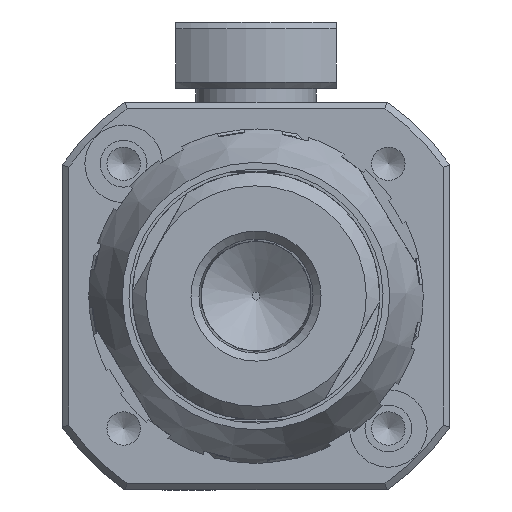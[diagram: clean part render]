
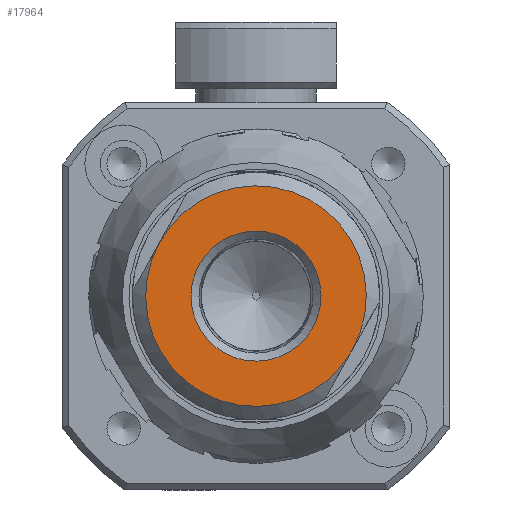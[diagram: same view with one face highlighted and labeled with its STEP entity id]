
A CAD part, front view. The second image highlights one B-rep face of the part: STEP entity #17964.
In plain terms, the highlighted planar face has unit normal (0, -1, 0).
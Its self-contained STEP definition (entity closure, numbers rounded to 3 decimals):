
#132 = EDGE_CURVE ( 'NONE', #370, #5322, #42770, .T. ) ;
#370 = VERTEX_POINT ( 'NONE', #45164 ) ;
#385 = ORIENTED_EDGE ( 'NONE', *, *, #132, .T. ) ;
#801 = EDGE_LOOP ( 'NONE', ( #385, #32803 ) ) ;
#1685 = DIRECTION ( 'NONE',  ( -0.873, 0., 0.487 ) ) ;
#1916 = DIRECTION ( 'NONE',  ( 0., -1., 0. ) ) ;
#4853 = CARTESIAN_POINT ( 'NONE',  ( -7.444, -97.732, 132.7 ) ) ;
#5322 = VERTEX_POINT ( 'NONE', #13178 ) ;
#7785 = DIRECTION ( 'NONE',  ( 0., -1., 0. ) ) ;
#8520 = DIRECTION ( 'NONE',  ( 0., -1., 0. ) ) ;
#9026 = AXIS2_PLACEMENT_3D ( 'NONE', #4853, #8520, #23540 ) ;
#13178 = CARTESIAN_POINT ( 'NONE',  ( -0.239, -97.732, 128.681 ) ) ;
#14811 = EDGE_LOOP ( 'NONE', ( #32183 ) ) ;
#16865 = DIRECTION ( 'NONE',  ( 0., 1., 0. ) ) ;
#17378 = FACE_OUTER_BOUND ( 'NONE', #801, .T. ) ;
#17964 = ADVANCED_FACE ( 'NONE', ( #20590, #17378 ), #31671, .F. ) ;
#19565 = CARTESIAN_POINT ( 'NONE',  ( -7.444, -97.732, 132.7 ) ) ;
#20039 = DIRECTION ( 'NONE',  ( -0.873, 0., 0.487 ) ) ;
#20590 = FACE_BOUND ( 'NONE', #14811, .T. ) ;
#21932 = AXIS2_PLACEMENT_3D ( 'NONE', #42783, #1916, #1685 ) ;
#22789 = CIRCLE ( 'NONE', #33804, 4.864 ) ;
#23540 = DIRECTION ( 'NONE',  ( -0.873, 0., 0.487 ) ) ;
#28208 = CARTESIAN_POINT ( 'NONE',  ( -7.444, -97.732, 132.7 ) ) ;
#30571 = CIRCLE ( 'NONE', #21932, 8.25 ) ;
#31671 = PLANE ( 'NONE',  #41599 ) ;
#31747 = EDGE_CURVE ( 'NONE', #5322, #370, #30571, .T. ) ;
#32183 = ORIENTED_EDGE ( 'NONE', *, *, #32876, .F. ) ;
#32803 = ORIENTED_EDGE ( 'NONE', *, *, #31747, .T. ) ;
#32876 = EDGE_CURVE ( 'NONE', #39758, #39758, #22789, .T. ) ;
#33804 = AXIS2_PLACEMENT_3D ( 'NONE', #19565, #7785, #20039 ) ;
#39758 = VERTEX_POINT ( 'NONE', #40676 ) ;
#40676 = CARTESIAN_POINT ( 'NONE',  ( -11.692, -97.732, 135.069 ) ) ;
#41599 = AXIS2_PLACEMENT_3D ( 'NONE', #28208, #16865, #42958 ) ;
#42770 = CIRCLE ( 'NONE', #9026, 8.25 ) ;
#42783 = CARTESIAN_POINT ( 'NONE',  ( -7.444, -97.732, 132.7 ) ) ;
#42958 = DIRECTION ( 'NONE',  ( 0.873, 0., -0.487 ) ) ;
#45164 = CARTESIAN_POINT ( 'NONE',  ( -14.65, -97.732, 136.719 ) ) ;
